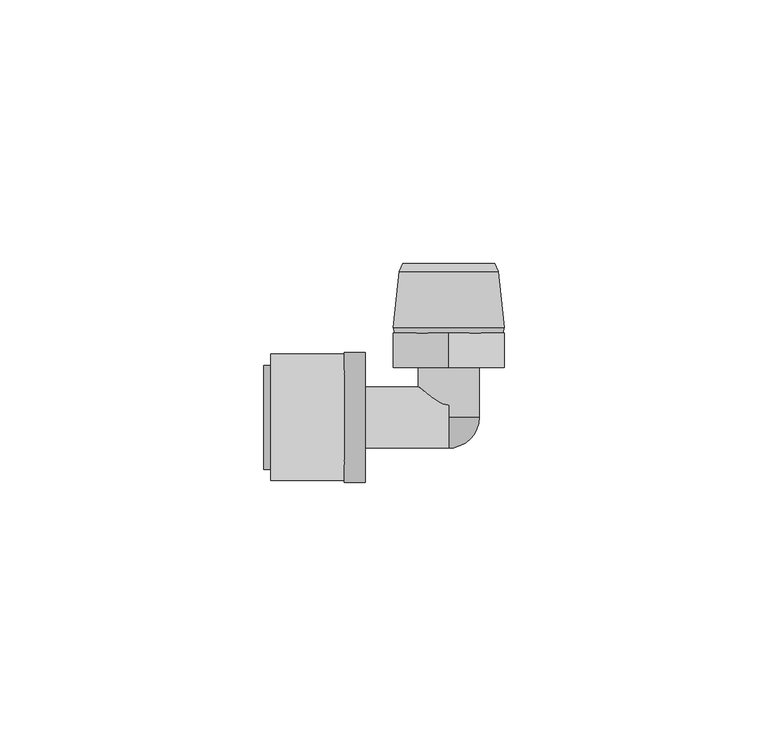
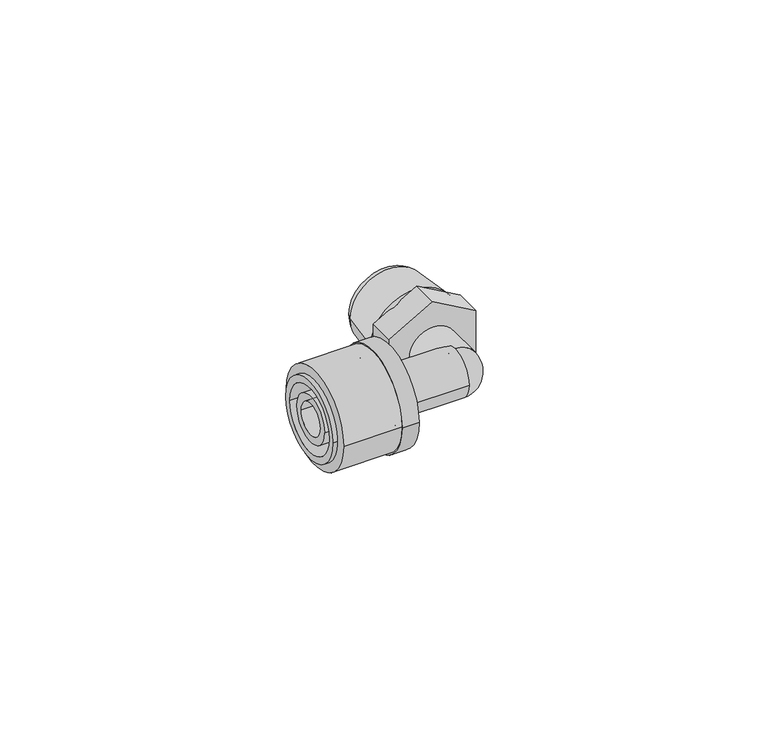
"""IFC4 building model written with IfcOpenShell, lengths in millimetres: pipe fitting geometry, FASTLOC_Elbow with male thread EX+ : FSL A internal AT."""

from ifc_helpers import new_model, si_unit, point, frame, origin, origin_2d, place, context, project, spatial, polyline, circle_curve, ellipse_curve, trimmed, segment, composite_curve, outline, extrude, source, transform, mapped, element, save
from ifc_brep_helpers import plane_surface, cylinder_surface, revolved_surface, advanced_brep


def pipe_fitting_5b5ff5cf(model_context):
    return source(origin(), model_context, "Body", "SolidModel", [
        extrude(outline(composite_curve([segment(trimmed(circle_curve(origin_2d(), 12.0), [point((12.0, 0.0))], [point((-12.0, 0.0))], False, "CARTESIAN"), True, "CONTINUOUS"), segment(trimmed(circle_curve(origin_2d(), 12.0), [point((-12.0, 0.0))], [point((12.0, 0.0))], False, "CARTESIAN"), True, "CONTINUOUS")], self_intersect=False), holes=[composite_curve([segment(trimmed(circle_curve(origin_2d(), 8.85), [point((8.85, 0.0))], [point((-8.85, 0.0))], True, "CARTESIAN"), True, "CONTINUOUS"), segment(trimmed(circle_curve(origin_2d(), 8.85), [point((-8.85, 0.0))], [point((8.85, 0.0))], True, "CARTESIAN"), True, "CONTINUOUS")], self_intersect=False)]), frame((-33.8, 0.0, 0.0), z_axis=(1.0, 0.0, 0.0), x_axis=(0.0, 1.0, 0.0)), (0.0, 0.0, 1.0), 14.0),
        advanced_brep(
        [(-19.8, -12.35, 0.0), (-19.8, 12.35, 0.0), (-15.8, 12.35, 0.0), (-15.8, -12.35, 0.0), (-35.1, -9.85, 0.0), (-35.1, 9.85, 0.0), (-19.8, 9.85, 0.0), (-19.8, -9.85, 0.0), (-15.8, -8.15, 0.0), (-15.8, 8.15, 0.0), (-35.1, 8.15, 0.0), (-35.1, -8.15, 0.0)],
        [
            (0, 1, circle_curve(frame((-19.8, 0.0, 0.0), z_axis=(1.0, 0.0, 0.0), x_axis=(0.0, 1.0, 0.0)), 12.35)),
            (1, 2),
            (2, 3, circle_curve(frame((-15.8, 0.0, 0.0), z_axis=(-1.0, 0.0, 0.0), x_axis=(0.0, 1.0, 0.0)), 12.35)),
            (3, 0),
            (4, 5, circle_curve(frame((-35.1, 0.0, 0.0), z_axis=(1.0, 0.0, 0.0), x_axis=(0.0, 1.0, 0.0)), 9.85)),
            (5, 6),
            (6, 7, circle_curve(frame((-19.8, 0.0, 0.0), z_axis=(-1.0, 0.0, 0.0), x_axis=(0.0, 1.0, 0.0)), 9.85)),
            (7, 4),
            (8, 9, circle_curve(frame((-15.8, 0.0, 0.0), z_axis=(1.0, 0.0, 0.0), x_axis=(0.0, 1.0, 0.0)), 8.15)),
            (9, 10),
            (10, 11, circle_curve(frame((-35.1, 0.0, 0.0), z_axis=(-1.0, 0.0, 0.0), x_axis=(0.0, 1.0, 0.0)), 8.15)),
            (11, 8),
            (1, 0, circle_curve(frame((-19.8, 0.0, 0.0), z_axis=(1.0, 0.0, 0.0), x_axis=(0.0, -1.0, 0.0)), 12.35)),
            (3, 2, circle_curve(frame((-15.8, 0.0, 0.0), z_axis=(-1.0, 0.0, 0.0), x_axis=(0.0, -1.0, 0.0)), 12.35)),
            (6, 7, circle_curve(frame((-19.8, 0.0, 0.0), z_axis=(1.0, 0.0, 0.0), x_axis=(0.0, -1.0, 0.0)), 9.85)),
            (5, 4, circle_curve(frame((-35.1, 0.0, 0.0), z_axis=(1.0, 0.0, 0.0), x_axis=(0.0, -1.0, 0.0)), 9.85)),
            (10, 11, circle_curve(frame((-35.1, 0.0, 0.0), z_axis=(1.0, 0.0, 0.0), x_axis=(0.0, -1.0, 0.0)), 8.15)),
            (9, 8, circle_curve(frame((-15.8, 0.0, 0.0), z_axis=(1.0, 0.0, 0.0), x_axis=(0.0, -1.0, 0.0)), 8.15)),
        ],
        [
            cylinder_surface(frame((-15.8, 0.0, 0.0), z_axis=(-1.0, 0.0, 0.0), x_axis=(0.0, 1.0, 0.0)), 12.35),
            cylinder_surface(frame((-15.8, 0.0, 0.0), z_axis=(-1.0, 0.0, 0.0), x_axis=(0.0, 1.0, 0.0)), 9.85),
            revolved_surface(polyline([(-35.1, 8.15, 0.0), (-15.8, 8.15, 0.0)]), (-15.8, 0.0, 0.0), (-1.0, 0.0, 0.0)),
            cylinder_surface(frame((-15.8, 0.0, 0.0), z_axis=(-1.0, 0.0, 0.0), x_axis=(0.0, -1.0, 0.0)), 12.35),
            plane_surface(frame((-19.8, 0.0, 0.0), z_axis=(-1.0, 0.0, 0.0), x_axis=(0.0, -1.0, 0.0))),
            cylinder_surface(frame((-15.8, 0.0, 0.0), z_axis=(-1.0, 0.0, 0.0), x_axis=(0.0, -1.0, 0.0)), 9.85),
            plane_surface(frame((-35.1, 0.0, 0.0), z_axis=(-1.0, 0.0, 0.0), x_axis=(0.0, -1.0, 0.0))),
            revolved_surface(polyline([(-35.1, -8.15, 0.0), (-15.8, -8.15, 0.0)]), (-15.8, 0.0, 0.0), (-1.0, 0.0, 0.0)),
            plane_surface(frame((-15.8, 0.0, 0.0), z_axis=(1.0, 0.0, 0.0), x_axis=(0.0, -1.0, 0.0))),
        ],
        [
            (0, [[1, 2, 3, 4]]),
            (1, [[5, 6, 7, 8]]),
            (2, [[9, 10, 11, 12]]),
            (3, [[13, -4, 14, -2]]),
            (4, [[-13, -1], [15, -7]]),
            (5, [[16, -8, -15, -6]]),
            (6, [[-16, -5], [17, -11]]),
            (7, [[18, -12, -17, -10]]),
            (8, [[-14, -3], [-18, -9]]),
        ],
    ),
        advanced_brep(
        [(9.4, 27.7000007, 0.0), (-9.4, 27.7000007, 0.0), (-8.75, 29.2, 0.0), (8.75, 29.2, 0.0), (10.55, 17.0531902, 0.0), (-10.55, 17.0531902, 0.0), (10.2, 16.0, 0.0), (-10.2, 16.0, 0.0), (7.0, 17.4157803, 0.0), (-7.0, 17.4157803, 0.0), (-5.8967197, 16.0, 0.0), (5.8967197, 16.0, 0.0), (7.0, 29.2, 0.0), (-7.0, 29.2, 0.0)],
        [
            (0, 1, circle_curve(frame((0.0, 27.7000007, 0.0), z_axis=(0.0, 1.0, 0.0), x_axis=(-1.0, 0.0, 0.0)), 9.4)),
            (1, 2),
            (2, 3, circle_curve(frame((0.0, 29.2, 0.0), z_axis=(0.0, -1.0, 0.0), x_axis=(-1.0, 0.0, 0.0)), 8.75)),
            (3, 0),
            (4, 5, circle_curve(frame((0.0, 17.0531902, 0.0), z_axis=(0.0, 1.0, 0.0), x_axis=(-1.0, 0.0, 0.0)), 10.55)),
            (5, 1),
            (0, 4),
            (6, 7, circle_curve(frame((0.0, 16.0, 0.0), z_axis=(0.0, 1.0, 0.0), x_axis=(-1.0, 0.0, 0.0)), 10.2)),
            (7, 5),
            (4, 6),
            (8, 9, circle_curve(frame((0.0, 17.4157803, 0.0), z_axis=(0.0, 1.0, 0.0), x_axis=(-1.0, 0.0, 0.0)), 7.0)),
            (9, 10),
            (10, 11, circle_curve(frame((0.0, 16.0, 0.0), z_axis=(0.0, -1.0, 0.0), x_axis=(-1.0, 0.0, 0.0)), 5.8967197)),
            (11, 8),
            (12, 13, circle_curve(frame((0.0, 29.2, 0.0), z_axis=(0.0, 1.0, 0.0), x_axis=(-1.0, 0.0, 0.0)), 7.0)),
            (13, 9),
            (8, 12),
            (2, 3, circle_curve(frame((0.0, 29.2, 0.0), z_axis=(0.0, 1.0, 0.0), x_axis=(1.0, 0.0, 0.0)), 8.75)),
            (12, 13, circle_curve(frame((0.0, 29.2, 0.0), z_axis=(0.0, -1.0, 0.0), x_axis=(1.0, 0.0, 0.0)), 7.0)),
            (1, 0, circle_curve(frame((0.0, 27.7000007, 0.0), z_axis=(0.0, 1.0, 0.0), x_axis=(1.0, 0.0, 0.0)), 9.4)),
            (5, 4, circle_curve(frame((0.0, 17.0531902, 0.0), z_axis=(0.0, 1.0, 0.0), x_axis=(1.0, 0.0, 0.0)), 10.55)),
            (7, 6, circle_curve(frame((0.0, 16.0, 0.0), z_axis=(0.0, 1.0, 0.0), x_axis=(1.0, 0.0, 0.0)), 10.2)),
            (10, 11, circle_curve(frame((0.0, 16.0, 0.0), z_axis=(0.0, 1.0, 0.0), x_axis=(1.0, 0.0, 0.0)), 5.8967197)),
            (9, 8, circle_curve(frame((0.0, 17.4157803, 0.0), z_axis=(0.0, 1.0, 0.0), x_axis=(1.0, 0.0, 0.0)), 7.0)),
        ],
        [
            revolved_surface(polyline([(-8.75, 29.2, 0.0), (-9.4, 27.7000007, 0.0)]), (0.0, 9.5, 0.0), (0.0, -1.0, 0.0)),
            revolved_surface(polyline([(-9.4, 27.7000007, 0.0), (-10.55, 17.0531902, 0.0)]), (0.0, 9.5, 0.0), (0.0, -1.0, 0.0)),
            revolved_surface(polyline([(-10.55, 17.0531902, 0.0), (-10.2, 16.0, 0.0)]), (0.0, 9.5, 0.0), (0.0, -1.0, 0.0)),
            revolved_surface(polyline([(-5.8967197, 16.0, 0.0), (-7.0, 17.4157803, 0.0)]), (0.0, 9.5, 0.0), (0.0, -1.0, 0.0)),
            revolved_surface(polyline([(-7.0, 17.4157803, 0.0), (-7.0, 29.2, 0.0)]), (0.0, 9.5, 0.0), (0.0, -1.0, 0.0)),
            plane_surface(frame((0.0, 29.2, 0.0), z_axis=(0.0, 1.0, 0.0), x_axis=(1.0, 0.0, 0.0))),
            revolved_surface(polyline([(8.75, 29.2, 0.0), (9.4, 27.7000007, 0.0)]), (0.0, 9.5, 0.0), (0.0, -1.0, 0.0)),
            revolved_surface(polyline([(9.4, 27.7000007, 0.0), (10.55, 17.0531902, 0.0)]), (0.0, 9.5, 0.0), (0.0, -1.0, 0.0)),
            revolved_surface(polyline([(10.55, 17.0531902, 0.0), (10.2, 16.0, 0.0)]), (0.0, 9.5, 0.0), (0.0, -1.0, 0.0)),
            plane_surface(frame((0.0, 16.0, 0.0), z_axis=(0.0, -1.0, 0.0), x_axis=(1.0, 0.0, 0.0))),
            revolved_surface(polyline([(5.8967197, 16.0, 0.0), (7.0, 17.4157803, 0.0)]), (0.0, 9.5, 0.0), (0.0, -1.0, 0.0)),
            revolved_surface(polyline([(7.0, 17.4157803, 0.0), (7.0, 29.2, 0.0)]), (0.0, 9.5, 0.0), (0.0, -1.0, 0.0)),
        ],
        [
            (0, [[1, 2, 3, 4]]),
            (1, [[5, 6, -1, 7]]),
            (2, [[8, 9, -5, 10]]),
            (3, [[11, 12, 13, 14]]),
            (4, [[15, 16, -11, 17]]),
            (5, [[18, -3], [19, -15]]),
            (6, [[20, -4, -18, -2]]),
            (7, [[21, -7, -20, -6]]),
            (8, [[22, -10, -21, -9]]),
            (9, [[-22, -8], [23, -13]]),
            (10, [[24, -14, -23, -12]]),
            (11, [[-19, -17, -24, -16]]),
        ],
    ),
        advanced_brep(
        [(-19.8, 5.8, 0.0), (-19.8, -5.8, 0.0), (-34.8, -5.8, 0.0), (-34.8, 5.8, 0.0), (-17.1, 6.9, 0.0), (-17.1, -6.9, 0.0), (-19.8, -6.9, 0.0), (-19.8, 6.9, 0.0), (0.0, 5.8, 0.0), (0.0, -5.8, 0.0), (-17.1, -5.8, 0.0), (-17.1, 5.8, 0.0), (-34.8, 3.95, 0.0), (-34.8, -3.95, 0.0), (0.0, -3.95, 0.0), (0.0, 3.95, 0.0)],
        [
            (0, 1, circle_curve(frame((-19.8, 0.0, 0.0), z_axis=(-1.0, 0.0, 0.0), x_axis=(0.0, -1.0, 0.0)), 5.8)),
            (1, 2),
            (2, 3, circle_curve(frame((-34.8, 0.0, 0.0), z_axis=(1.0, 0.0, 0.0), x_axis=(0.0, -1.0, 0.0)), 5.8)),
            (3, 0),
            (4, 5, circle_curve(frame((-17.1, 0.0, 0.0), z_axis=(-1.0, 0.0, 0.0), x_axis=(0.0, -1.0, 0.0)), 6.9)),
            (5, 6),
            (6, 7, circle_curve(frame((-19.8, 0.0, 0.0), z_axis=(1.0, 0.0, 0.0), x_axis=(0.0, -1.0, 0.0)), 6.9)),
            (7, 4),
            (8, 9, circle_curve(frame((0.0, 0.0, 0.0), z_axis=(-1.0, 0.0, 0.0), x_axis=(0.0, -1.0, 0.0)), 5.8)),
            (9, 10),
            (10, 11, circle_curve(frame((-17.1, 0.0, 0.0), z_axis=(1.0, 0.0, 0.0), x_axis=(0.0, -1.0, 0.0)), 5.8)),
            (11, 8),
            (12, 13, circle_curve(frame((-34.8, 0.0, 0.0), z_axis=(-1.0, 0.0, 0.0), x_axis=(0.0, -1.0, 0.0)), 3.95)),
            (13, 14),
            (14, 15, circle_curve(frame((0.0, 0.0, 0.0), z_axis=(1.0, 0.0, 0.0), x_axis=(0.0, -1.0, 0.0)), 3.95)),
            (15, 12),
            (2, 3, circle_curve(frame((-34.8, 0.0, 0.0), z_axis=(-1.0, 0.0, 0.0), x_axis=(0.0, 1.0, 0.0)), 5.8)),
            (12, 13, circle_curve(frame((-34.8, 0.0, 0.0), z_axis=(1.0, 0.0, 0.0), x_axis=(0.0, 1.0, 0.0)), 3.95)),
            (1, 0, circle_curve(frame((-19.8, 0.0, 0.0), z_axis=(-1.0, 0.0, 0.0), x_axis=(0.0, 1.0, 0.0)), 5.8)),
            (6, 7, circle_curve(frame((-19.8, 0.0, 0.0), z_axis=(-1.0, 0.0, 0.0), x_axis=(0.0, 1.0, 0.0)), 6.9)),
            (5, 4, circle_curve(frame((-17.1, 0.0, 0.0), z_axis=(-1.0, 0.0, 0.0), x_axis=(0.0, 1.0, 0.0)), 6.9)),
            (10, 11, circle_curve(frame((-17.1, 0.0, 0.0), z_axis=(-1.0, 0.0, 0.0), x_axis=(0.0, 1.0, 0.0)), 5.8)),
            (9, 8, circle_curve(frame((0.0, 0.0, 0.0), z_axis=(-1.0, 0.0, 0.0), x_axis=(0.0, 1.0, 0.0)), 5.8)),
            (14, 15, circle_curve(frame((0.0, 0.0, 0.0), z_axis=(-1.0, 0.0, 0.0), x_axis=(0.0, 1.0, 0.0)), 3.95)),
        ],
        [
            cylinder_surface(frame((0.0, 0.0, 0.0), z_axis=(1.0, 0.0, 0.0), x_axis=(0.0, -1.0, 0.0)), 5.8),
            cylinder_surface(frame((0.0, 0.0, 0.0), z_axis=(1.0, 0.0, 0.0), x_axis=(0.0, -1.0, 0.0)), 6.9),
            revolved_surface(polyline([(0.0, -3.95, 0.0), (-34.8, -3.95, 0.0)]), (0.0, 0.0, 0.0), (1.0, 0.0, 0.0)),
            plane_surface(frame((-34.8, 0.0, 0.0), z_axis=(-1.0, 0.0, 0.0), x_axis=(0.0, 1.0, 0.0))),
            cylinder_surface(frame((0.0, 0.0, 0.0), z_axis=(1.0, 0.0, 0.0), x_axis=(0.0, 1.0, 0.0)), 5.8),
            plane_surface(frame((-19.8, 0.0, 0.0), z_axis=(-1.0, 0.0, 0.0), x_axis=(0.0, 1.0, 0.0))),
            cylinder_surface(frame((0.0, 0.0, 0.0), z_axis=(1.0, 0.0, 0.0), x_axis=(0.0, 1.0, 0.0)), 6.9),
            plane_surface(frame((-17.1, 0.0, 0.0), z_axis=(1.0, 0.0, 0.0), x_axis=(0.0, 1.0, 0.0))),
            plane_surface(frame((0.0, 0.0, 0.0), z_axis=(1.0, 0.0, 0.0), x_axis=(0.0, 1.0, 0.0))),
            revolved_surface(polyline([(0.0, 3.95, 0.0), (-34.8, 3.95, 0.0)]), (0.0, 0.0, 0.0), (1.0, 0.0, 0.0)),
        ],
        [
            (0, [[1, 2, 3, 4]]),
            (1, [[5, 6, 7, 8]]),
            (0, [[9, 10, 11, 12]]),
            (2, [[13, 14, 15, 16]]),
            (3, [[17, -3], [18, -13]]),
            (4, [[19, -4, -17, -2]]),
            (5, [[20, -7], [-19, -1]]),
            (6, [[21, -8, -20, -6]]),
            (7, [[-21, -5], [22, -11]]),
            (4, [[23, -12, -22, -10]]),
            (8, [[-23, -9], [24, -15]]),
            (9, [[-18, -16, -24, -14]]),
        ],
    ),
        advanced_brep(
        [(0.0, -5.8, 0.0), (0.0, 0.0, 5.8), (0.0, 0.0, 3.95), (0.0, -3.95, 0.0), (0.0, 0.0, -3.95), (0.0, 0.0, -5.8)],
        [
            (0, 1, circle_curve(frame((0.0, 0.0, 0.0), z_axis=(-1.0, 0.0, 0.0), x_axis=(0.0, 0.0, 1.0)), 5.8)),
            (1, 2),
            (2, 3, circle_curve(frame((0.0, 0.0, 0.0), z_axis=(1.0, 0.0, 0.0), x_axis=(0.0, 0.0, 1.0)), 3.95)),
            (3, 0),
            (3, 4, circle_curve(frame((0.0, 0.0, 0.0), z_axis=(1.0, 0.0, 0.0), x_axis=(0.0, 0.0, -1.0)), 3.95)),
            (4, 5),
            (5, 0, circle_curve(frame((0.0, 0.0, 0.0), z_axis=(-1.0, 0.0, 0.0), x_axis=(0.0, 0.0, -1.0)), 5.8)),
            (5, 1, circle_curve(frame((0.0, 0.0, 0.0), z_axis=(0.0, -1.0, 0.0), x_axis=(0.0, 0.0, 1.0)), 5.8)),
            (4, 2, circle_curve(frame((0.0, 0.0, 0.0), z_axis=(0.0, -1.0, 0.0), x_axis=(0.0, 0.0, 1.0)), 3.95)),
        ],
        [
            plane_surface(frame((0.0, 0.0, 0.0), z_axis=(-1.0, 0.0, 0.0), x_axis=(0.0, 0.0, 1.0))),
            plane_surface(frame((0.0, 0.0, 0.0), z_axis=(-1.0, 0.0, 0.0), x_axis=(0.0, 0.0, -1.0))),
            revolved_surface(trimmed(ellipse_curve(frame((0.0, 0.0, 0.0), z_axis=(-1.0, 0.0, 0.0), x_axis=(0.0, 0.0, 1.0)), 5.8, 5.8), [point((0.0, -5.8, 0.0))], [point((0.0, 0.0, 5.8))], True, "CARTESIAN"), (0.0, 0.0, 0.0), (0.0, 1.0, 0.0)),
            plane_surface(frame((0.0, 0.0, 0.0), z_axis=(0.0, 1.0, 0.0), x_axis=(0.0, 0.0, 1.0))),
            revolved_surface(trimmed(ellipse_curve(frame((0.0, 0.0, 0.0), z_axis=(1.0, 0.0, 0.0), x_axis=(0.0, 0.0, 1.0)), 3.95, 3.95), [point((0.0, 0.0, 3.95))], [point((0.0, -3.95, 0.0))], True, "CARTESIAN"), (0.0, 0.0, 0.0), (0.0, 1.0, 0.0)),
        ],
        [
            (0, [[1, 2, 3, 4]]),
            (1, [[5, 6, 7, -4]]),
            (2, [[8, -1, -7]]),
            (3, [[9, -2, -8, -6]]),
            (4, [[-3, -9, -5]]),
        ],
    ),
        extrude(outline(polyline([(-6.0621778, 10.5), (6.0621778, 10.5), (12.1243557, 0.0), (6.0621778, -10.5), (-6.0621778, -10.5), (-12.1243557, 0.0), (-6.0621778, 10.5)])), frame((0.0, 9.5, 0.0), z_axis=(0.0, 1.0, 0.0), x_axis=(0.0, 0.0, 1.0)), (0.0, 0.0, 1.0), 6.5),
        extrude(outline(composite_curve([segment(trimmed(circle_curve(origin_2d(), 5.8), [point((0.0, -5.8))], [point((0.0, 5.8))], False, "CARTESIAN"), True, "CONTINUOUS"), segment(trimmed(circle_curve(origin_2d(), 5.8), [point((0.0, 5.8))], [point((0.0, -5.8))], False, "CARTESIAN"), True, "CONTINUOUS")], self_intersect=False), holes=[composite_curve([segment(trimmed(circle_curve(origin_2d(), 3.95), [point((0.0, -3.95))], [point((0.0, 3.95))], True, "CARTESIAN"), True, "CONTINUOUS"), segment(trimmed(circle_curve(origin_2d(), 3.95), [point((0.0, 3.95))], [point((0.0, -3.95))], True, "CARTESIAN"), True, "CONTINUOUS")], self_intersect=False)]), frame((0.0, 0.0, 0.0), z_axis=(0.0, 1.0, 0.0), x_axis=(0.0, 0.0, 1.0)), (0.0, 0.0, 1.0), 9.5),
    ])


if __name__ == "__main__":
    model = new_model("IFC4")
    model_context = context("Model", 3, world=origin())
    ifc_project = project(units=[si_unit("LENGTHUNIT", "METRE", prefix="MILLI")], contexts=[model_context])
    site = spatial("IfcSite", under=ifc_project)
    building = spatial("IfcBuilding", under=site)
    placement = place(None, origin())
    pipe_fitting_shape = pipe_fitting_5b5ff5cf(model_context)
    element("IfcPipeFitting", 1, ObjectType="FASTLOC_Elbow with male thread EX+ : FSL A internal AT", at=placement, inside=building, context=model_context, shape_type="MappedRepresentation", body=[
        mapped(pipe_fitting_shape, transform((0.0, 0.0, 0.0), x_axis=(1.0, 0.0, 0.0), y_axis=(0.0, 1.0, 0.0), z_axis=(0.0, 0.0, 1.0))),
    ])
    save(model, "model.ifc")
